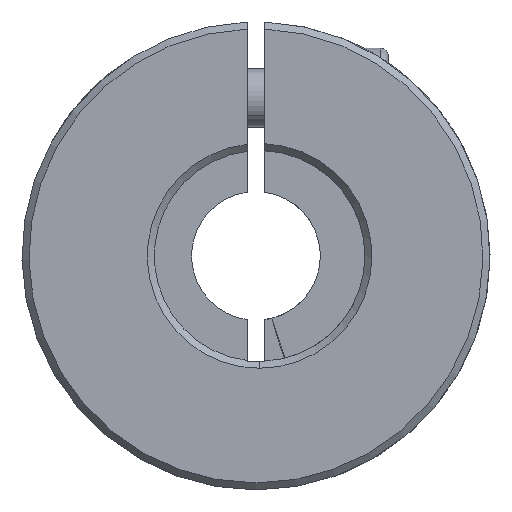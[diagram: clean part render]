
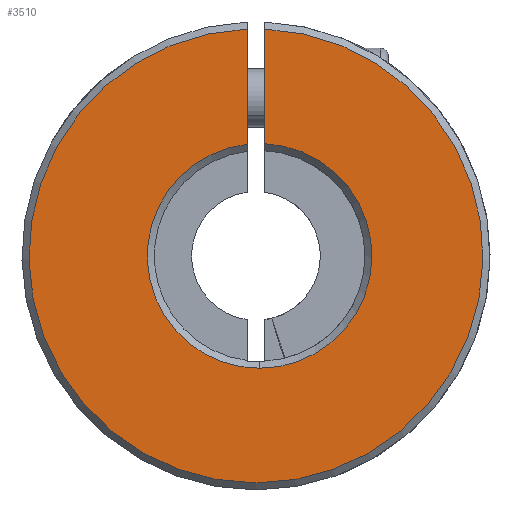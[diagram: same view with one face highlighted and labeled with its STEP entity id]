
A CAD part, front view. The second image highlights one B-rep face of the part: STEP entity #3510.
In plain terms, the highlighted planar face has unit normal (0, -1, 0).
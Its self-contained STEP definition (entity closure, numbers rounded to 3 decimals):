
#427 = EDGE_CURVE ( 'NONE', #3782, #888, #4924, .T. ) ;
#458 = VERTEX_POINT ( 'NONE', #3520 ) ;
#578 = VERTEX_POINT ( 'NONE', #2846 ) ;
#592 = DIRECTION ( 'NONE',  ( 0., 1., 0. ) ) ;
#641 = AXIS2_PLACEMENT_3D ( 'NONE', #3773, #5636, #4228 ) ;
#888 = VERTEX_POINT ( 'NONE', #5091 ) ;
#1377 = EDGE_CURVE ( 'NONE', #4242, #3782, #5880, .T. ) ;
#1485 = ORIENTED_EDGE ( 'NONE', *, *, #427, .T. ) ;
#1569 = DIRECTION ( 'NONE',  ( 0., 0., 1. ) ) ;
#1729 = CARTESIAN_POINT ( 'NONE',  ( 0.75, -30., -9. ) ) ;
#1942 = EDGE_LOOP ( 'NONE', ( #1995, #2719, #4427, #1485, #3047 ) ) ;
#1995 = ORIENTED_EDGE ( 'NONE', *, *, #4758, .T. ) ;
#2180 = CARTESIAN_POINT ( 'NONE',  ( 0., -30., 0. ) ) ;
#2368 = CARTESIAN_POINT ( 'NONE',  ( 0.314, -30., 0. ) ) ;
#2625 = FACE_OUTER_BOUND ( 'NONE', #1942, .T. ) ;
#2719 = ORIENTED_EDGE ( 'NONE', *, *, #4571, .T. ) ;
#2846 = CARTESIAN_POINT ( 'NONE',  ( 0.75, -30., 19.385 ) ) ;
#2965 = CARTESIAN_POINT ( 'NONE',  ( 0.314, -30., 0. ) ) ;
#3047 = ORIENTED_EDGE ( 'NONE', *, *, #5754, .T. ) ;
#3136 = PLANE ( 'NONE',  #3364 ) ;
#3164 = LINE ( 'NONE', #1729, #3582 ) ;
#3267 = CIRCLE ( 'NONE', #641, 19.4 ) ;
#3364 = AXIS2_PLACEMENT_3D ( 'NONE', #2180, #3674, #3615 ) ;
#3510 = ADVANCED_FACE ( 'NONE', ( #2625 ), #3136, .F. ) ;
#3520 = CARTESIAN_POINT ( 'NONE',  ( 0.75, -30., 9.59 ) ) ;
#3582 = VECTOR ( 'NONE', #5529, 1000. ) ;
#3615 = DIRECTION ( 'NONE',  ( 0., 0., 1. ) ) ;
#3674 = DIRECTION ( 'NONE',  ( 0., 1., 0. ) ) ;
#3773 = CARTESIAN_POINT ( 'NONE',  ( 0., -30., 0. ) ) ;
#3782 = VERTEX_POINT ( 'NONE', #4914 ) ;
#3819 = VECTOR ( 'NONE', #4413, 1000. ) ;
#3871 = CARTESIAN_POINT ( 'NONE',  ( 0.314, -30., -9.6 ) ) ;
#4228 = DIRECTION ( 'NONE',  ( 0., 0., 1. ) ) ;
#4242 = VERTEX_POINT ( 'NONE', #3871 ) ;
#4387 = DIRECTION ( 'NONE',  ( 0., 0., 1. ) ) ;
#4413 = DIRECTION ( 'NONE',  ( 0., 0., 1. ) ) ;
#4427 = ORIENTED_EDGE ( 'NONE', *, *, #1377, .T. ) ;
#4571 = EDGE_CURVE ( 'NONE', #458, #4242, #4940, .T. ) ;
#4758 = EDGE_CURVE ( 'NONE', #578, #458, #3164, .T. ) ;
#4914 = CARTESIAN_POINT ( 'NONE',  ( -0.75, -30., 9.541 ) ) ;
#4924 = LINE ( 'NONE', #5765, #3819 ) ;
#4940 = CIRCLE ( 'NONE', #5326, 9.6 ) ;
#5091 = CARTESIAN_POINT ( 'NONE',  ( -0.75, -30., 19.385 ) ) ;
#5234 = AXIS2_PLACEMENT_3D ( 'NONE', #2368, #592, #4387 ) ;
#5326 = AXIS2_PLACEMENT_3D ( 'NONE', #2965, #5741, #1569 ) ;
#5529 = DIRECTION ( 'NONE',  ( 0., 0., -1. ) ) ;
#5636 = DIRECTION ( 'NONE',  ( 0., -1., 0. ) ) ;
#5741 = DIRECTION ( 'NONE',  ( 0., 1., 0. ) ) ;
#5754 = EDGE_CURVE ( 'NONE', #888, #578, #3267, .T. ) ;
#5765 = CARTESIAN_POINT ( 'NONE',  ( -0.75, -30., -9. ) ) ;
#5880 = CIRCLE ( 'NONE', #5234, 9.6 ) ;
